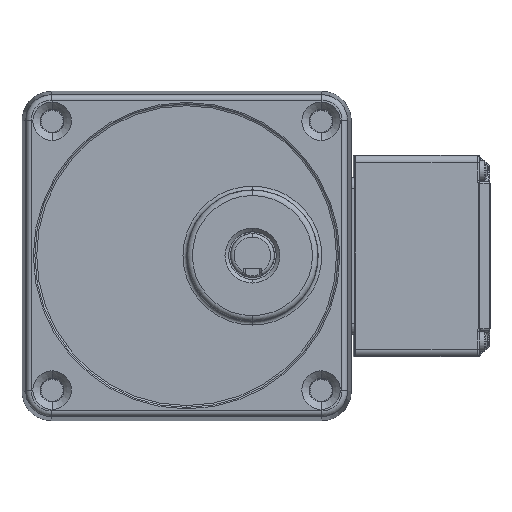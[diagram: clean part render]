
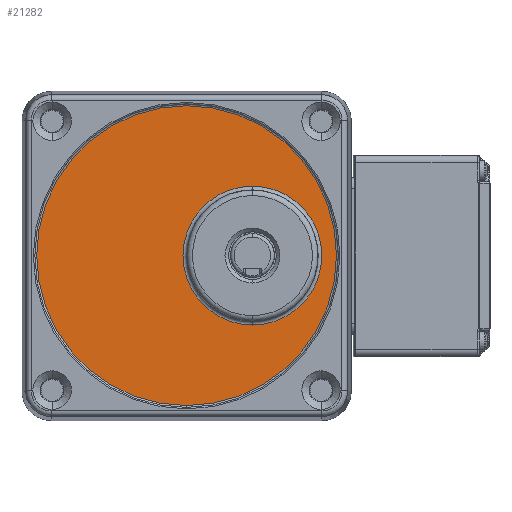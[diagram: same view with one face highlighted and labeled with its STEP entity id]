
A CAD part, top view. The second image highlights one B-rep face of the part: STEP entity #21282.
In plain terms, the highlighted planar face has unit normal (0, 0, 1) as drawn and (1, 0, 0) by its records, which use the part's own axes.
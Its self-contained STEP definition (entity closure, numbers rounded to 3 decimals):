
#805 = VERTEX_POINT ( 'NONE', #26016 ) ;
#3794 = EDGE_CURVE ( 'NONE', #41769, #32662, #38779, .T. ) ;
#7421 = DIRECTION ( 'NONE',  ( 0., -1., 0. ) ) ;
#7903 = ORIENTED_EDGE ( 'NONE', *, *, #31082, .F. ) ;
#8046 = DIRECTION ( 'NONE',  ( -1., 0., 0. ) ) ;
#9958 = CARTESIAN_POINT ( 'NONE',  ( 2697.792, -734.166, 0. ) ) ;
#10052 = ORIENTED_EDGE ( 'NONE', *, *, #3794, .F. ) ;
#10882 = AXIS2_PLACEMENT_3D ( 'NONE', #31040, #49942, #7421 ) ;
#12312 = DIRECTION ( 'NONE',  ( 1., 0., 0. ) ) ;
#12424 = CARTESIAN_POINT ( 'NONE',  ( 2697.792, -775.157, 18. ) ) ;
#14240 = EDGE_LOOP ( 'NONE', ( #50180, #10052 ) ) ;
#16557 = DIRECTION ( 'NONE',  ( -1., 0., 0. ) ) ;
#16967 = FACE_BOUND ( 'NONE', #35891, .T. ) ;
#21282 = ADVANCED_FACE ( 'NONE', ( #59479, #16967 ), #35909, .T. ) ;
#26016 = CARTESIAN_POINT ( 'NONE',  ( 2697.792, -756.175, 18. ) ) ;
#26768 = AXIS2_PLACEMENT_3D ( 'NONE', #50545, #8046, #27018 ) ;
#27018 = DIRECTION ( 'NONE',  ( 0., -1., 0. ) ) ;
#27540 = ORIENTED_EDGE ( 'NONE', *, *, #42757, .F. ) ;
#30495 = CARTESIAN_POINT ( 'NONE',  ( 2697.792, -816.149, 0. ) ) ;
#31040 = CARTESIAN_POINT ( 'NONE',  ( 2697.792, -775.157, 18. ) ) ;
#31082 = EDGE_CURVE ( 'NONE', #60206, #805, #37655, .T. ) ;
#31251 = DIRECTION ( 'NONE',  ( 0., 1., 0. ) ) ;
#31360 = DIRECTION ( 'NONE',  ( 1., 0., 0. ) ) ;
#32403 = EDGE_CURVE ( 'NONE', #32662, #41769, #53505, .T. ) ;
#32564 = AXIS2_PLACEMENT_3D ( 'NONE', #12424, #31360, #50258 ) ;
#32662 = VERTEX_POINT ( 'NONE', #30495 ) ;
#35483 = DIRECTION ( 'NONE',  ( 0., 1., 0. ) ) ;
#35891 = EDGE_LOOP ( 'NONE', ( #7903, #27540 ) ) ;
#35909 = PLANE ( 'NONE',  #47803 ) ;
#37655 = CIRCLE ( 'NONE', #10882, 18.983 ) ;
#38779 = CIRCLE ( 'NONE', #51598, 40.991 ) ;
#41769 = VERTEX_POINT ( 'NONE', #9958 ) ;
#42757 = EDGE_CURVE ( 'NONE', #805, #60206, #59332, .T. ) ;
#47803 = AXIS2_PLACEMENT_3D ( 'NONE', #54825, #12312, #31251 ) ;
#49942 = DIRECTION ( 'NONE',  ( 1., 0., 0. ) ) ;
#50180 = ORIENTED_EDGE ( 'NONE', *, *, #32403, .F. ) ;
#50258 = DIRECTION ( 'NONE',  ( 0., 1., 0. ) ) ;
#50545 = CARTESIAN_POINT ( 'NONE',  ( 2697.792, -775.157, 0. ) ) ;
#51598 = AXIS2_PLACEMENT_3D ( 'NONE', #59077, #16557, #35483 ) ;
#53505 = CIRCLE ( 'NONE', #26768, 40.991 ) ;
#54825 = CARTESIAN_POINT ( 'NONE',  ( 2697.792, -775.157, 0. ) ) ;
#56951 = CARTESIAN_POINT ( 'NONE',  ( 2697.792, -794.14, 18. ) ) ;
#59077 = CARTESIAN_POINT ( 'NONE',  ( 2697.792, -775.157, 0. ) ) ;
#59332 = CIRCLE ( 'NONE', #32564, 18.983 ) ;
#59479 = FACE_OUTER_BOUND ( 'NONE', #14240, .T. ) ;
#60206 = VERTEX_POINT ( 'NONE', #56951 ) ;
